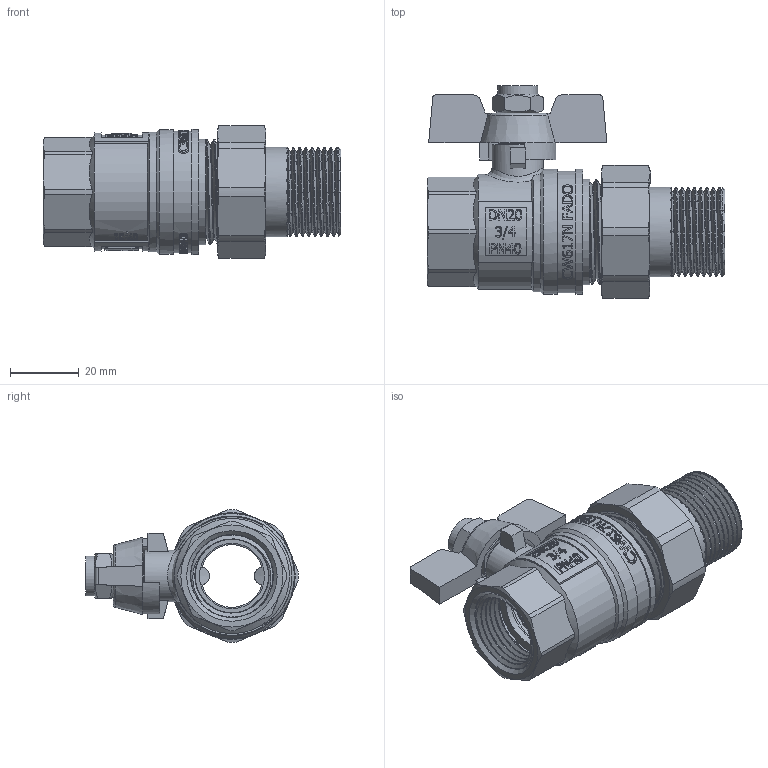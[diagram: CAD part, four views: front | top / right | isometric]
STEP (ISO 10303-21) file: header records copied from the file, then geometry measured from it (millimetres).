
FILE_DESCRIPTION(/* description */ (''),/* implementation_level */ '2;1');
FILE_NAME(/* name */ 'C:\Users\Doom\Desktop\Фадотех\KA12 08.11.2021\KA12 08.11.2021.stp',/* time_stamp */ '2021-12-04T02:02:11+02:00',/* author */ ('Doom'),/* organization */ (''),/* preprocessor_version */ 'ST-DEVELOPER v18',/* originating_system */ 'Autodesk Inventor 2020',/* authorisation */ '');
FILE_SCHEMA (('AUTOMOTIVE_DESIGN { 1 0 10303 214 3 1 1 }'));
Products named in the file (10): 601488106; 5010501048005; KA2 08.11.2021; 22208286; KA1 08.11.2021; 20642011; KA2 08.11.2021_1; KA2 08.11.2021_2; KA2 08.11.2021_3; DIN 985 - M8
Assembly tree (9 placements, depth 2):
  601488106
    5010501048005
    KA2 08.11.2021
    22208286
    KA1 08.11.2021
    20642011
    KA2 08.11.2021_1
    KA2 08.11.2021_2
    KA2 08.11.2021_3
    DIN 985 - M8
Bounding box: 87 x 62.1 x 38.79 mm (x, y, z)
Volume: 44570.4 mm3; surface area: 50300.7 mm2
Topology: 19 solids, 19 shells, 2837 faces, 8187 edges, 5473 vertices
Faces by surface type: plane 1520, bspline 833, cylinder 417, cone 59, torus 7, sphere 1
Full cylindrical faces by diameter (mm): 6.647 x1, 8 x1, 8.1 x1, 8.2 x1, 8.946 x7, 10 x1, 10.3 x1, 10.8 x2, 11 x1, 11.6 x1, 12.5 x1, 15 x1, 16 x1, 17.5 x1, 19 x3, 20 x1, 20.5 x1, 21.48 x6, 23.41 x2, 24 x1, 24.17 x2, 25 x1, 26 x2, 26.1 x1, 26.2 x1, 27.326 x6, 27.9 x1, 28.276 x5, 28.526 x2, 30 x1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
Entity records: 150640 total; most frequent: CARTESIAN_POINT 86281, ORIENTED_EDGE 16342, DIRECTION 8630, EDGE_CURVE 8171, VERTEX_POINT 5466, B_SPLINE_CURVE_WITH_KNOTS 4306, EDGE_LOOP 2963, AXIS2_PLACEMENT_3D 2896
